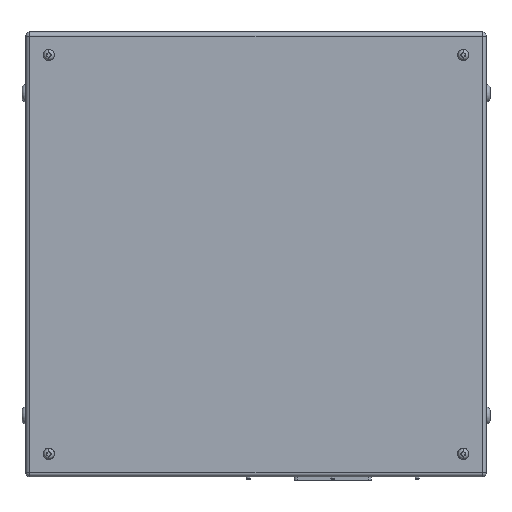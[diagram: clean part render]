
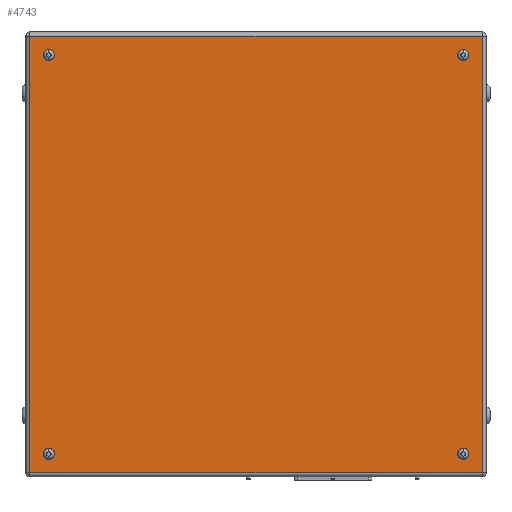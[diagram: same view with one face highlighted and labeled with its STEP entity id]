
A CAD part, front view. The second image highlights one B-rep face of the part: STEP entity #4743.
In plain terms, the highlighted planar face has unit normal (0, -1, 0).
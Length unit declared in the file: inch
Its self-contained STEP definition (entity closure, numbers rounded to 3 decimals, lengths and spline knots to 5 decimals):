
#146 = CARTESIAN_POINT ( 'NONE',  ( 13.5, -7.25, 13. ) ) ;
#215 = EDGE_CURVE ( 'NONE', #3171, #5320, #7382, .T. ) ;
#310 = AXIS2_PLACEMENT_3D ( 'NONE', #8412, #4302, #6315 ) ;
#495 = CARTESIAN_POINT ( 'NONE',  ( 14.734, -7.25, -14.234 ) ) ;
#847 = CARTESIAN_POINT ( 'NONE',  ( -14.734, -7.25, 14.234 ) ) ;
#859 = AXIS2_PLACEMENT_3D ( 'NONE', #12584, #9469, #13777 ) ;
#1180 = DIRECTION ( 'NONE',  ( 0., -1., 0. ) ) ;
#1505 = VERTEX_POINT ( 'NONE', #495 ) ;
#1530 = VECTOR ( 'NONE', #5086, 39.37008 ) ;
#1721 = FACE_BOUND ( 'NONE', #6992, .T. ) ;
#1799 = EDGE_CURVE ( 'NONE', #3286, #9735, #13623, .T. ) ;
#1852 = CARTESIAN_POINT ( 'NONE',  ( 14.734, -7.25, -14.234 ) ) ;
#2044 = CARTESIAN_POINT ( 'NONE',  ( -14.734, -7.25, 14.234 ) ) ;
#2165 = ORIENTED_EDGE ( 'NONE', *, *, #12542, .T. ) ;
#2322 = CARTESIAN_POINT ( 'NONE',  ( 13.5, -7.25, 12.62598 ) ) ;
#2463 = AXIS2_PLACEMENT_3D ( 'NONE', #5631, #12012, #7652 ) ;
#3110 = ORIENTED_EDGE ( 'NONE', *, *, #3876, .F. ) ;
#3171 = VERTEX_POINT ( 'NONE', #9649 ) ;
#3286 = VERTEX_POINT ( 'NONE', #12395 ) ;
#3348 = CARTESIAN_POINT ( 'NONE',  ( 14.734, -7.25, 14.234 ) ) ;
#3457 = CARTESIAN_POINT ( 'NONE',  ( 13.5, -7.25, -12.62598 ) ) ;
#3758 = VERTEX_POINT ( 'NONE', #3457 ) ;
#3855 = AXIS2_PLACEMENT_3D ( 'NONE', #12749, #5091, #6350 ) ;
#3876 = EDGE_CURVE ( 'NONE', #8893, #8790, #4430, .T. ) ;
#3955 = FACE_BOUND ( 'NONE', #7849, .T. ) ;
#4016 = DIRECTION ( 'NONE',  ( 0., -1., 0. ) ) ;
#4025 = CARTESIAN_POINT ( 'NONE',  ( -13.5, -7.25, -12.62598 ) ) ;
#4065 = ORIENTED_EDGE ( 'NONE', *, *, #12071, .T. ) ;
#4067 = CIRCLE ( 'NONE', #3855, 0.37402 ) ;
#4159 = DIRECTION ( 'NONE',  ( 1., 0., 0. ) ) ;
#4181 = EDGE_CURVE ( 'NONE', #6828, #3758, #9772, .T. ) ;
#4194 = CIRCLE ( 'NONE', #9091, 0.37402 ) ;
#4302 = DIRECTION ( 'NONE',  ( 0., -1., 0. ) ) ;
#4425 = EDGE_CURVE ( 'NONE', #9735, #4746, #8167, .T. ) ;
#4426 = VECTOR ( 'NONE', #12491, 39.37008 ) ;
#4430 = CIRCLE ( 'NONE', #12934, 0.37402 ) ;
#4743 = ADVANCED_FACE ( 'NONE', ( #3955, #7944, #8219, #1721, #13499 ), #11428, .T. ) ;
#4746 = VERTEX_POINT ( 'NONE', #13362 ) ;
#5086 = DIRECTION ( 'NONE',  ( 0., 0., -1. ) ) ;
#5091 = DIRECTION ( 'NONE',  ( 0., -1., 0. ) ) ;
#5308 = AXIS2_PLACEMENT_3D ( 'NONE', #12064, #8810, #13134 ) ;
#5320 = VERTEX_POINT ( 'NONE', #4025 ) ;
#5377 = ORIENTED_EDGE ( 'NONE', *, *, #6288, .F. ) ;
#5631 = CARTESIAN_POINT ( 'NONE',  ( -13.5, -7.25, 13. ) ) ;
#5824 = AXIS2_PLACEMENT_3D ( 'NONE', #6285, #11455, #10545 ) ;
#5881 = CARTESIAN_POINT ( 'NONE',  ( -13.5, -7.25, 13.37402 ) ) ;
#5899 = DIRECTION ( 'NONE',  ( 0., 0., -1. ) ) ;
#6285 = CARTESIAN_POINT ( 'NONE',  ( -13.5, -7.25, -13. ) ) ;
#6288 = EDGE_CURVE ( 'NONE', #5320, #3171, #4067, .T. ) ;
#6315 = DIRECTION ( 'NONE',  ( 0., 0., -1. ) ) ;
#6350 = DIRECTION ( 'NONE',  ( 0., 0., -1. ) ) ;
#6635 = LINE ( 'NONE', #3348, #7157 ) ;
#6828 = VERTEX_POINT ( 'NONE', #8203 ) ;
#6992 = EDGE_LOOP ( 'NONE', ( #5377, #10028 ) ) ;
#7142 = CIRCLE ( 'NONE', #2463, 0.37402 ) ;
#7157 = VECTOR ( 'NONE', #9828, 39.37008 ) ;
#7272 = DIRECTION ( 'NONE',  ( 0., 0., -1. ) ) ;
#7327 = VERTEX_POINT ( 'NONE', #2322 ) ;
#7382 = CIRCLE ( 'NONE', #5824, 0.37402 ) ;
#7442 = CARTESIAN_POINT ( 'NONE',  ( 13.5, -7.25, 13.37402 ) ) ;
#7463 = AXIS2_PLACEMENT_3D ( 'NONE', #8979, #13302, #12223 ) ;
#7652 = DIRECTION ( 'NONE',  ( 0., 0., -1. ) ) ;
#7849 = EDGE_LOOP ( 'NONE', ( #11311, #8478 ) ) ;
#7944 = FACE_BOUND ( 'NONE', #12498, .T. ) ;
#8167 = LINE ( 'NONE', #13454, #1530 ) ;
#8203 = CARTESIAN_POINT ( 'NONE',  ( 13.5, -7.25, -13.37402 ) ) ;
#8219 = FACE_BOUND ( 'NONE', #8737, .T. ) ;
#8412 = CARTESIAN_POINT ( 'NONE',  ( 13.5, -7.25, 13. ) ) ;
#8478 = ORIENTED_EDGE ( 'NONE', *, *, #13485, .F. ) ;
#8737 = EDGE_LOOP ( 'NONE', ( #12581, #3110 ) ) ;
#8790 = VERTEX_POINT ( 'NONE', #5881 ) ;
#8810 = DIRECTION ( 'NONE',  ( 0., -1., 0. ) ) ;
#8893 = VERTEX_POINT ( 'NONE', #10267 ) ;
#8979 = CARTESIAN_POINT ( 'NONE',  ( 0., -7.25, 0. ) ) ;
#8990 = ORIENTED_EDGE ( 'NONE', *, *, #4425, .T. ) ;
#9091 = AXIS2_PLACEMENT_3D ( 'NONE', #146, #1180, #7272 ) ;
#9159 = VERTEX_POINT ( 'NONE', #7442 ) ;
#9254 = CARTESIAN_POINT ( 'NONE',  ( -13.5, -7.25, 13. ) ) ;
#9469 = DIRECTION ( 'NONE',  ( 0., -1., 0. ) ) ;
#9649 = CARTESIAN_POINT ( 'NONE',  ( -13.5, -7.25, -13.37402 ) ) ;
#9735 = VERTEX_POINT ( 'NONE', #2044 ) ;
#9749 = EDGE_CURVE ( 'NONE', #9159, #7327, #4194, .T. ) ;
#9772 = CIRCLE ( 'NONE', #5308, 0.37402 ) ;
#9828 = DIRECTION ( 'NONE',  ( 0., 0., 1. ) ) ;
#10028 = ORIENTED_EDGE ( 'NONE', *, *, #215, .F. ) ;
#10267 = CARTESIAN_POINT ( 'NONE',  ( -13.5, -7.25, 12.62598 ) ) ;
#10463 = CIRCLE ( 'NONE', #859, 0.37402 ) ;
#10525 = ORIENTED_EDGE ( 'NONE', *, *, #4181, .F. ) ;
#10545 = DIRECTION ( 'NONE',  ( 0., 0., -1. ) ) ;
#10623 = EDGE_CURVE ( 'NONE', #3758, #6828, #10463, .T. ) ;
#11293 = EDGE_CURVE ( 'NONE', #8790, #8893, #7142, .T. ) ;
#11311 = ORIENTED_EDGE ( 'NONE', *, *, #9749, .F. ) ;
#11428 = PLANE ( 'NONE',  #7463 ) ;
#11455 = DIRECTION ( 'NONE',  ( 0., -1., 0. ) ) ;
#11819 = ORIENTED_EDGE ( 'NONE', *, *, #1799, .T. ) ;
#12012 = DIRECTION ( 'NONE',  ( 0., -1., 0. ) ) ;
#12064 = CARTESIAN_POINT ( 'NONE',  ( 13.5, -7.25, -13. ) ) ;
#12071 = EDGE_CURVE ( 'NONE', #1505, #3286, #6635, .T. ) ;
#12105 = VECTOR ( 'NONE', #4159, 39.37008 ) ;
#12223 = DIRECTION ( 'NONE',  ( 0., 0., -1. ) ) ;
#12303 = EDGE_LOOP ( 'NONE', ( #4065, #11819, #8990, #2165 ) ) ;
#12379 = CIRCLE ( 'NONE', #310, 0.37402 ) ;
#12395 = CARTESIAN_POINT ( 'NONE',  ( 14.734, -7.25, 14.234 ) ) ;
#12491 = DIRECTION ( 'NONE',  ( -1., 0., 0. ) ) ;
#12498 = EDGE_LOOP ( 'NONE', ( #13775, #10525 ) ) ;
#12542 = EDGE_CURVE ( 'NONE', #4746, #1505, #12566, .T. ) ;
#12566 = LINE ( 'NONE', #1852, #12105 ) ;
#12581 = ORIENTED_EDGE ( 'NONE', *, *, #11293, .F. ) ;
#12584 = CARTESIAN_POINT ( 'NONE',  ( 13.5, -7.25, -13. ) ) ;
#12749 = CARTESIAN_POINT ( 'NONE',  ( -13.5, -7.25, -13. ) ) ;
#12934 = AXIS2_PLACEMENT_3D ( 'NONE', #9254, #4016, #5899 ) ;
#13134 = DIRECTION ( 'NONE',  ( 0., 0., -1. ) ) ;
#13302 = DIRECTION ( 'NONE',  ( 0., -1., 0. ) ) ;
#13362 = CARTESIAN_POINT ( 'NONE',  ( -14.734, -7.25, -14.234 ) ) ;
#13454 = CARTESIAN_POINT ( 'NONE',  ( -14.734, -7.25, -14.234 ) ) ;
#13485 = EDGE_CURVE ( 'NONE', #7327, #9159, #12379, .T. ) ;
#13499 = FACE_OUTER_BOUND ( 'NONE', #12303, .T. ) ;
#13623 = LINE ( 'NONE', #847, #4426 ) ;
#13775 = ORIENTED_EDGE ( 'NONE', *, *, #10623, .F. ) ;
#13777 = DIRECTION ( 'NONE',  ( 0., 0., -1. ) ) ;
